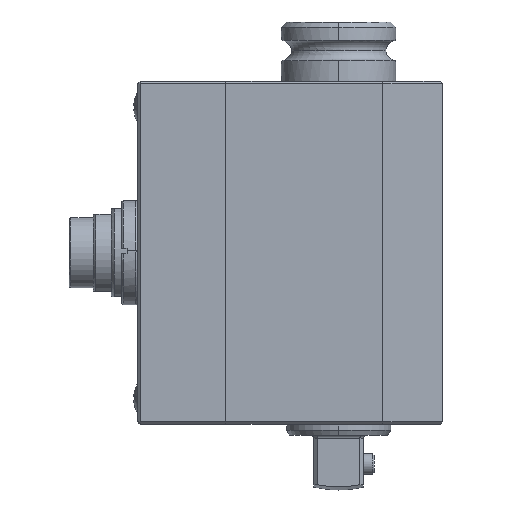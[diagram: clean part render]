
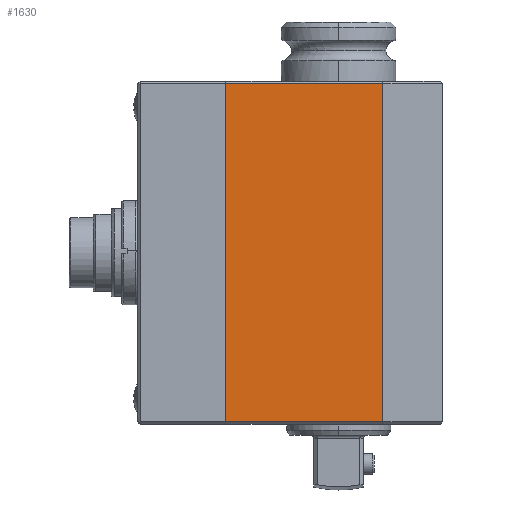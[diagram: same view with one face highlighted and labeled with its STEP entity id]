
A CAD part, left-side view. The second image highlights one B-rep face of the part: STEP entity #1630.
In plain terms, the highlighted planar face has unit normal (-1, 0, 0).
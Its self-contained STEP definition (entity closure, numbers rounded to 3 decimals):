
#88 = EDGE_LOOP ( 'NONE', ( #6403, #110, #6510, #9367 ) ) ;
#110 = ORIENTED_EDGE ( 'NONE', *, *, #7288, .T. ) ;
#1077 = DIRECTION ( 'NONE',  ( 0., 0., 1. ) ) ;
#1323 = CARTESIAN_POINT ( 'NONE',  ( -20., 41.7, -65.5 ) ) ;
#1391 = LINE ( 'NONE', #9778, #5957 ) ;
#1630 = ADVANCED_FACE ( 'NONE', ( #7709 ), #3456, .T. ) ;
#1864 = VECTOR ( 'NONE', #7546, 1000. ) ;
#2227 = VECTOR ( 'NONE', #1077, 1000. ) ;
#2994 = CARTESIAN_POINT ( 'NONE',  ( -20., 11.5, -65.5 ) ) ;
#3375 = DIRECTION ( 'NONE',  ( 0., -1., 0. ) ) ;
#3456 = PLANE ( 'NONE',  #7351 ) ;
#3585 = CARTESIAN_POINT ( 'NONE',  ( -20., 11.5, -66. ) ) ;
#3910 = VECTOR ( 'NONE', #5726, 1000. ) ;
#4412 = EDGE_CURVE ( 'NONE', #4869, #6414, #9081, .T. ) ;
#4869 = VERTEX_POINT ( 'NONE', #1323 ) ;
#5421 = EDGE_CURVE ( 'NONE', #4869, #5965, #6529, .T. ) ;
#5600 = CARTESIAN_POINT ( 'NONE',  ( -20., 41.7, -0.5 ) ) ;
#5643 = VERTEX_POINT ( 'NONE', #6847 ) ;
#5726 = DIRECTION ( 'NONE',  ( 0., -1., 0. ) ) ;
#5736 = CARTESIAN_POINT ( 'NONE',  ( -20., 11.5, -66. ) ) ;
#5916 = DIRECTION ( 'NONE',  ( -1., 0., 0. ) ) ;
#5957 = VECTOR ( 'NONE', #6093, 1000. ) ;
#5965 = VERTEX_POINT ( 'NONE', #5600 ) ;
#6093 = DIRECTION ( 'NONE',  ( 0., 1., 0. ) ) ;
#6403 = ORIENTED_EDGE ( 'NONE', *, *, #9180, .T. ) ;
#6414 = VERTEX_POINT ( 'NONE', #10423 ) ;
#6510 = ORIENTED_EDGE ( 'NONE', *, *, #5421, .F. ) ;
#6529 = LINE ( 'NONE', #6538, #2227 ) ;
#6538 = CARTESIAN_POINT ( 'NONE',  ( -20., 41.7, -66. ) ) ;
#6847 = CARTESIAN_POINT ( 'NONE',  ( -20., 11.5, -0.5 ) ) ;
#7003 = LINE ( 'NONE', #5736, #1864 ) ;
#7288 = EDGE_CURVE ( 'NONE', #5643, #5965, #1391, .T. ) ;
#7351 = AXIS2_PLACEMENT_3D ( 'NONE', #3585, #5916, #3375 ) ;
#7546 = DIRECTION ( 'NONE',  ( 0., 0., 1. ) ) ;
#7709 = FACE_OUTER_BOUND ( 'NONE', #88, .T. ) ;
#9081 = LINE ( 'NONE', #2994, #3910 ) ;
#9180 = EDGE_CURVE ( 'NONE', #6414, #5643, #7003, .T. ) ;
#9367 = ORIENTED_EDGE ( 'NONE', *, *, #4412, .T. ) ;
#9778 = CARTESIAN_POINT ( 'NONE',  ( -20., 41.7, -0.5 ) ) ;
#10423 = CARTESIAN_POINT ( 'NONE',  ( -20., 11.5, -65.5 ) ) ;
